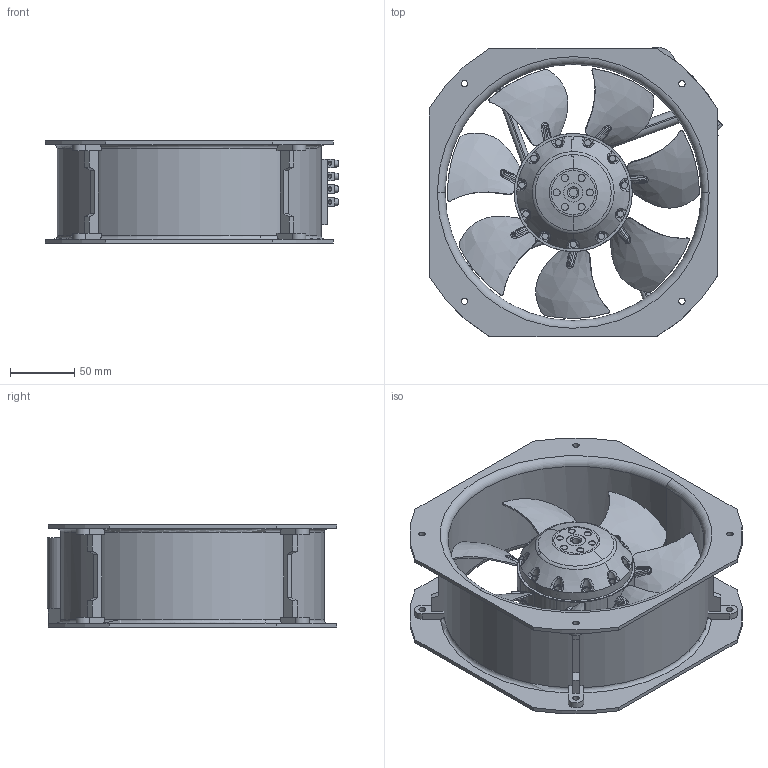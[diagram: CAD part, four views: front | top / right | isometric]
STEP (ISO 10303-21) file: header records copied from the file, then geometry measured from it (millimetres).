
FILE_DESCRIPTION((''),'2;1');
FILE_NAME('A2E200S-7KN-AA4H_ASM','2026-03-11T',('DCKJ'),(''),'PRO/ENGINEER BY PARAMETRIC TECHNOLOGY CORPORATION, 2010280','PRO/ENGINEER BY PARAMETRIC TECHNOLOGY CORPORATION, 2010280','');
FILE_SCHEMA(('CONFIG_CONTROL_DESIGN'));
Products named in the file (18): MSBR-3_6; MSBR-2_6; MSBR-1_6; MZZ092-017-T0-J2__________ASM_3_ASM; PRT0001; 200LVK_1; 200SFENGL_ASM_1_ASM_ASM_ASM_ASM; 200SFENGL_ASM_ASM_ASM_ASM_ASM; 4PDUANZI_1; YUNXINGDIANRONG_1; A2E200S-5KN-AAS0_ASM_ASM_ASM; PRT0002; ASM0003_ASM_ASM_ASM; ASM0002_ASM_ASM_ASM; ASM0001_ASM_ASM_ASM; DIANRONGLUODING_1; A2E200S-5KN-AA4H_ASM_ASM; A2E200S-7KN-AA4H_ASM
Assembly tree (23 placements, depth 7):
  A2E200S-7KN-AA4H_ASM
    A2E200S-5KN-AA4H_ASM_ASM
      A2E200S-5KN-AAS0_ASM_ASM_ASM
        200SFENGL_ASM_ASM_ASM_ASM_ASM
          200SFENGL_ASM_1_ASM_ASM_ASM_ASM
            MZZ092-017-T0-J2__________ASM_3_ASM
              MSBR-3_6
              MSBR-2_6
              MSBR-1_6
            PRT0001
            200LVK_1
        4PDUANZI_1
        YUNXINGDIANRONG_1
      ASM0001_ASM_ASM_ASM
        ASM0002_ASM_ASM_ASM
          ASM0003_ASM_ASM_ASM
            PRT0002  x7
      DIANRONGLUODING_1
Bounding box: 229.33 x 225.88 x 80 mm (x, y, z)
Volume: 509477.8 mm3; surface area: 359510.4 mm2
Topology: 15 solids, 22 shells, 3078 faces, 8376 edges, 5290 vertices
Faces by surface type: plane 831, cylinder 726, bspline 551, extrusion 405, torus 396, sphere 96, cone 39, revolution 34
Entity records: 115331 total; most frequent: CARTESIAN_POINT 45676, ORIENTED_EDGE 15404, DIRECTION 13307, EDGE_CURVE 7704, VERTEX_POINT 4954, AXIS2_PLACEMENT_3D 4893, VECTOR 3487, LINE 3082
